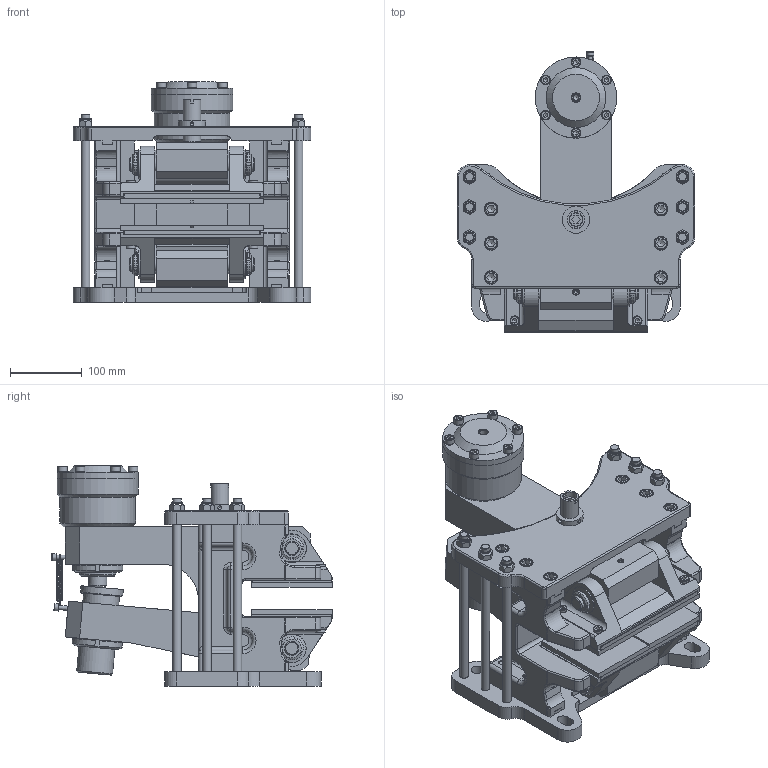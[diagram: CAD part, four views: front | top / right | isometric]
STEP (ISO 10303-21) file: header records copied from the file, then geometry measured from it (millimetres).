
FILE_DESCRIPTION(/* description */ ('','CAx-IF Rec.Pracs.---Representation and Presentation of Product Manufacturing Information (PMI)---4.0---2014-10-13'),/* implementation_level */ '2;1');
FILE_NAME(/* name */ 'X:\INVENTOR\DISEGNI\19_Pinze\STEP x Sito\OLEO-POSITIVE\19_26_700_05 POTP700_30.stp',/* time_stamp */ '2018-10-30T08:36:52+01:00',/* author */ ('stefano'),/* organization */ (''),/* preprocessor_version */ 'ST-DEVELOPER v17',/* originating_system */ 'Autodesk Inventor 2018',/* authorisation */ '');
FILE_SCHEMA (('AP242_MANAGED_MODEL_BASED_3D_ENGINEERING_MIM_LF { 1 0 10303 442 1 1 4 }'));
Products named in the file (1): 19_26_700_05 POTP700_30_Substitute_2
Bounding box: 330.02 x 390 x 306.1 mm (x, y, z)
Volume: 10173782.7 mm3; surface area: 1019588.1 mm2
Topology: 1 solids, 1 shells, 1509 faces, 4089 edges, 2670 vertices
Faces by surface type: plane 775, cylinder 398, cone 171, torus 129, bspline 24, sphere 12
Full cylindrical faces by diameter (mm): 1.2 x2, 3 x1, 5.188 x1, 5.25 x4, 6 x2, 8 x9, 8.376 x1, 8.5 x8, 8.917 x1, 9.188 x1, 10 x2, 10.106 x18, 11.445 x1, 12 x25, 12.5 x18, 13 x22, 13.5 x8, 14 x1, 15.3 x6, 17 x2, 18 x14, 19 x12, 19.5 x1, 20 x12, 22 x6, 25 x7, 28 x1, 33.6 x1, 38 x1, 50 x3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
Entity records: 55568 total; most frequent: CARTESIAN_POINT 16577, ORIENTED_EDGE 8084, DIRECTION 7982, EDGE_CURVE 4042, AXIS2_PLACEMENT_3D 3035, VERTEX_POINT 2670, LINE 1912, VECTOR 1912
